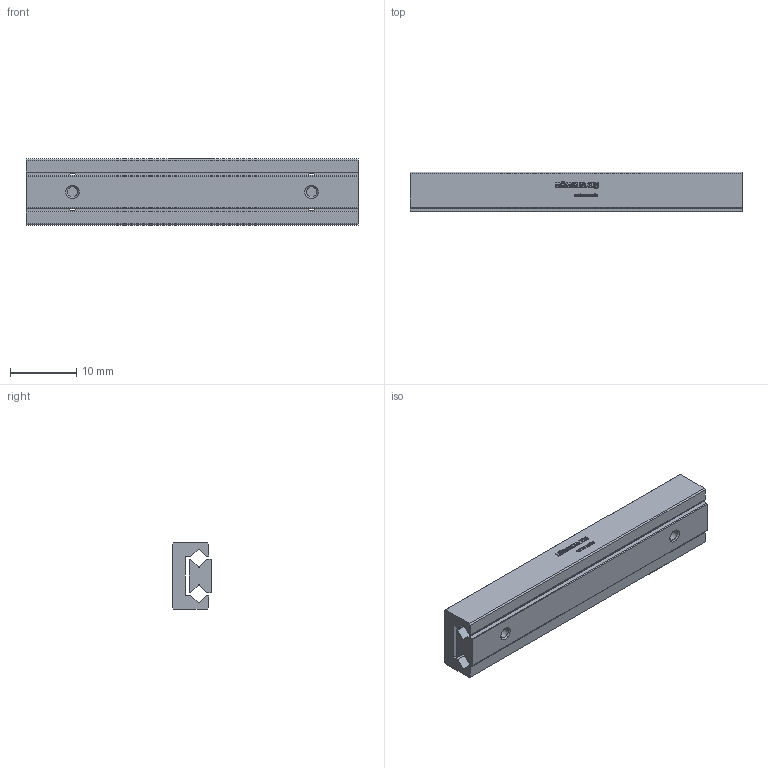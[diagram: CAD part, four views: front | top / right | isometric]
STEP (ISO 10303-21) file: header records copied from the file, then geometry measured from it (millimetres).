
FILE_DESCRIPTION(/* description */ ('STEP AP214'),/* implementation_level */ '2;1');
FILE_NAME(/* name */ 'MSR 5-50.45(0)',/* time_stamp */ '2025-04-16T17:18:57+02:00',/* author */ ('License CC BY-ND 4.0'),/* organization */ ('CADENAS'),/* preprocessor_version */ 'ST-DEVELOPER v19.3',/* originating_system */ 'PARTsolutions',/* authorisation */ ' ');
FILE_SCHEMA (('AUTOMOTIVE_DESIGN {1 0 10303 214 3 1 1}'));
Length unit declared in the file: millimetre
Products named in the file (3): MSR 5-50.45(0); MSR 5-50.45_1; MSR 5-50.45_2
Assembly tree (2 placements, depth 2):
  MSR 5-50.45(0)
    MSR 5-50.45_1
    MSR 5-50.45_2
Bounding box: 50 x 6 x 10 mm (x, y, z)
Volume: 2257.1 mm3; surface area: 3043.5 mm2
Topology: 2 solids, 2 shells, 521 faces, 1466 edges, 976 vertices
Faces by surface type: cylinder 302, plane 211, cone 8
Full cylindrical faces by diameter (mm): 1.567 x6
Entity records: 17053 total; most frequent: DIRECTION 3108, CARTESIAN_POINT 2944, ORIENTED_EDGE 2896, EDGE_CURVE 1448, AXIS2_PLACEMENT_3D 1136, VERTEX_POINT 972, LINE 836, VECTOR 836
